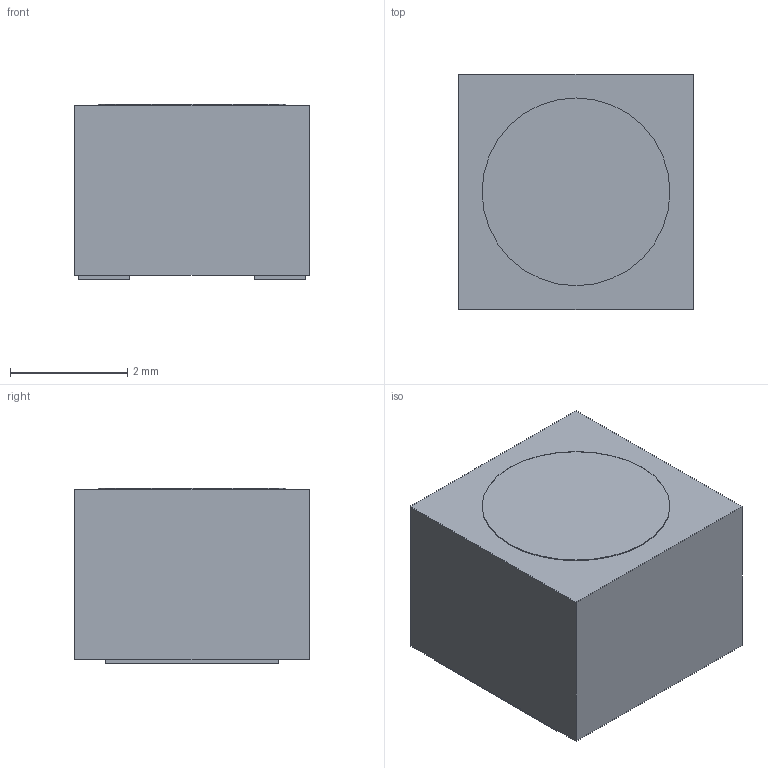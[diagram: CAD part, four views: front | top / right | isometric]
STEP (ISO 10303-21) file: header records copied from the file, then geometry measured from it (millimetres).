
FILE_DESCRIPTION(('FreeCAD Model'),'2;1');
FILE_NAME('Open CASCADE Shape Model','2026-09-23T12:07:02',('FreeCAD'),( 'FreeCAD'),'Open CASCADE STEP processor 7.8','FreeCAD','Unknown');
FILE_SCHEMA(('AUTOMOTIVE_DESIGN { 1 0 10303 214 1 1 1 1 }'));
Length unit declared in the file: millimetre
Products named in the file (1): Open CASCADE STEP translator 7.8 15
Bounding box: 4 x 4 x 2.99 mm (x, y, z)
Volume: 47.3 mm3; surface area: 107.3 mm2
Topology: 4 solids, 4 shells, 52 faces, 132 edges, 88 vertices
Faces by surface type: plane 52
Entity records: 1540 total; most frequent: CARTESIAN_POINT 273, ORIENTED_EDGE 264, DIRECTION 238, EDGE_CURVE 132, LINE 132, VECTOR 132, VERTEX_POINT 88, AXIS2_PLACEMENT_3D 53
